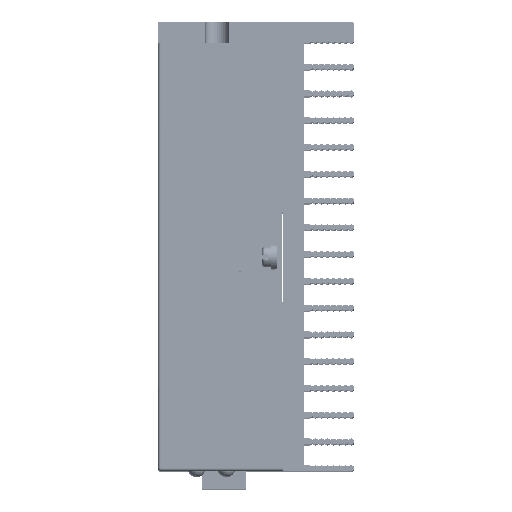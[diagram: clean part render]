
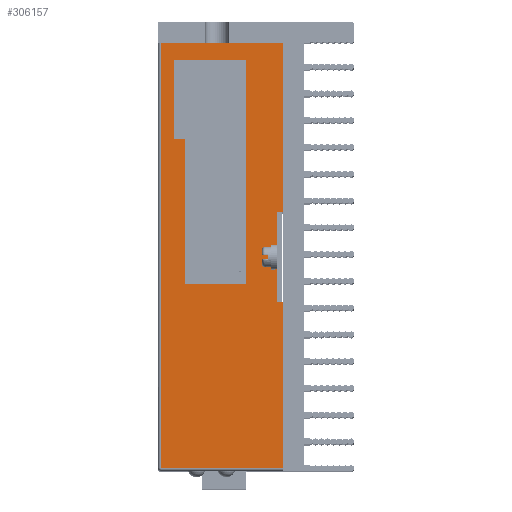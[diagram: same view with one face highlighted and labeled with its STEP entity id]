
A CAD part, top view. The second image highlights one B-rep face of the part: STEP entity #306157.
In plain terms, the highlighted planar face has unit normal (0, 0, 1).
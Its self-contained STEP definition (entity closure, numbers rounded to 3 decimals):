
#281=CARTESIAN_POINT('',(-16.25,34.398,111.));
#283=DIRECTION('',(0.,-1.,0.));
#284=VECTOR('',#283,71.483);
#285=CARTESIAN_POINT('',(-16.25,34.398,111.));
#286=LINE('',#285,#284);
#291=DIRECTION('',(1.,0.,0.));
#292=VECTOR('',#291,4.086);
#293=CARTESIAN_POINT('',(-16.25,34.398,111.));
#294=LINE('',#293,#292);
#295=CARTESIAN_POINT('',(-12.164,34.398,111.));
#296=CARTESIAN_POINT('',(-12.026,34.398,111.));
#297=CARTESIAN_POINT('',(-11.888,34.395,111.));
#298=CARTESIAN_POINT('',(-11.75,34.395,111.));
#300=DIRECTION('',(0.,1.,0.));
#301=VECTOR('',#300,3.);
#302=CARTESIAN_POINT('',(-11.75,34.395,111.));
#303=LINE('',#302,#301);
#304=DIRECTION('',(1.,0.,0.));
#305=VECTOR('',#304,2.);
#306=CARTESIAN_POINT('',(-11.75,37.395,111.));
#307=LINE('',#306,#305);
#308=CARTESIAN_POINT('',(-9.75,34.395,111.));
#309=CARTESIAN_POINT('',(-9.612,34.395,111.));
#310=CARTESIAN_POINT('',(-9.474,34.398,111.));
#311=CARTESIAN_POINT('',(-9.336,34.398,111.));
#313=DIRECTION('',(1.,0.,0.));
#314=VECTOR('',#313,13.586);
#315=CARTESIAN_POINT('',(-9.336,34.398,111.));
#316=LINE('',#315,#314);
#317=DIRECTION('',(-1.,0.,0.));
#318=VECTOR('',#317,0.05);
#319=CARTESIAN_POINT('',(4.25,5.9,111.));
#320=LINE('',#319,#318);
#321=DIRECTION('',(-1.,0.,0.));
#322=VECTOR('',#321,0.95);
#323=CARTESIAN_POINT('',(4.2,5.9,111.));
#324=LINE('',#323,#322);
#325=DIRECTION('',(1.,0.,0.));
#326=VECTOR('',#325,10.3);
#327=CARTESIAN_POINT('',(-12.25,-6.2,111.));
#328=LINE('',#327,#326);
#329=DIRECTION('',(0.,1.,0.));
#330=VECTOR('',#329,37.8);
#331=CARTESIAN_POINT('',(-1.95,-6.2,111.));
#332=LINE('',#331,#330);
#333=DIRECTION('',(-1.,0.,0.));
#334=VECTOR('',#333,12.1);
#335=CARTESIAN_POINT('',(-1.95,31.6,111.));
#336=LINE('',#335,#334);
#337=DIRECTION('',(0.,-1.,0.));
#338=VECTOR('',#337,13.4);
#339=CARTESIAN_POINT('',(-14.05,31.6,111.));
#340=LINE('',#339,#338);
#341=DIRECTION('',(1.,0.,0.));
#342=VECTOR('',#341,1.8);
#343=CARTESIAN_POINT('',(-14.05,18.2,111.));
#344=LINE('',#343,#342);
#345=DIRECTION('',(0.,-1.,0.));
#346=VECTOR('',#345,24.4);
#347=CARTESIAN_POINT('',(-12.25,18.2,111.));
#348=LINE('',#347,#346);
#2417=DIRECTION('',(0.,1.,0.));
#2418=VECTOR('',#2417,28.5);
#2419=CARTESIAN_POINT('',(4.25,5.9,111.));
#2420=LINE('',#2419,#2418);
#2506=DIRECTION('',(0.,1.,0.));
#2507=VECTOR('',#2506,27.985);
#2508=CARTESIAN_POINT('',(4.25,-37.085,111.));
#2509=LINE('',#2508,#2507);
#3377=DIRECTION('',(-1.,0.,0.));
#3378=VECTOR('',#3377,0.05);
#3379=CARTESIAN_POINT('',(4.25,-9.1,111.));
#3380=LINE('',#3379,#3378);
#3385=DIRECTION('',(-1.,0.,0.));
#3386=VECTOR('',#3385,0.95);
#3387=CARTESIAN_POINT('',(4.2,-9.1,111.));
#3388=LINE('',#3387,#3386);
#3393=DIRECTION('',(0.,1.,0.));
#3394=VECTOR('',#3393,15.);
#3395=CARTESIAN_POINT('',(3.25,-9.1,111.));
#3396=LINE('',#3395,#3394);
#9759=DIRECTION('',(1.,0.,0.));
#9760=VECTOR('',#9759,20.5);
#9761=CARTESIAN_POINT('',(-16.25,-37.085,111.));
#9762=LINE('',#9761,#9760);
#224230=DIRECTION('',(0.,1.,0.));
#224231=VECTOR('',#224230,3.);
#224232=CARTESIAN_POINT('',(-9.75,34.395,111.));
#224233=LINE('',#224232,#224231);
#230077=VERTEX_POINT('',#281);
#230082=CARTESIAN_POINT('',(-16.25,-37.085,111.));
#230083=VERTEX_POINT('',#230082);
#230086=CARTESIAN_POINT('',(-12.164,34.398,111.));
#230087=VERTEX_POINT('',#230086);
#230088=VERTEX_POINT('',#298);
#230089=CARTESIAN_POINT('',(-11.75,37.395,111.));
#230090=VERTEX_POINT('',#230089);
#230091=CARTESIAN_POINT('',(-9.75,37.395,111.));
#230092=VERTEX_POINT('',#230091);
#230093=CARTESIAN_POINT('',(-9.75,34.395,111.));
#230094=VERTEX_POINT('',#230093);
#230095=VERTEX_POINT('',#311);
#230096=CARTESIAN_POINT('',(4.25,34.4,111.));
#230097=VERTEX_POINT('',#230096);
#230098=CARTESIAN_POINT('',(4.25,5.9,111.));
#230099=VERTEX_POINT('',#230098);
#230100=CARTESIAN_POINT('',(4.2,5.9,111.));
#230101=VERTEX_POINT('',#230100);
#230102=CARTESIAN_POINT('',(3.25,5.9,111.));
#230103=VERTEX_POINT('',#230102);
#230104=CARTESIAN_POINT('',(3.25,-9.1,111.));
#230105=VERTEX_POINT('',#230104);
#230106=CARTESIAN_POINT('',(4.2,-9.1,111.));
#230107=VERTEX_POINT('',#230106);
#230108=CARTESIAN_POINT('',(4.25,-9.1,111.));
#230109=VERTEX_POINT('',#230108);
#230110=CARTESIAN_POINT('',(4.25,-37.085,111.));
#230111=VERTEX_POINT('',#230110);
#230112=CARTESIAN_POINT('',(-12.25,-6.2,111.));
#230113=CARTESIAN_POINT('',(-1.95,-6.2,111.));
#230114=VERTEX_POINT('',#230112);
#230115=VERTEX_POINT('',#230113);
#230116=CARTESIAN_POINT('',(-1.95,31.6,111.));
#230117=VERTEX_POINT('',#230116);
#230118=CARTESIAN_POINT('',(-14.05,31.6,111.));
#230119=VERTEX_POINT('',#230118);
#230120=CARTESIAN_POINT('',(-14.05,18.2,111.));
#230121=VERTEX_POINT('',#230120);
#230122=CARTESIAN_POINT('',(-12.25,18.2,111.));
#230123=VERTEX_POINT('',#230122);
#306105=CARTESIAN_POINT('',(-16.75,-37.585,111.));
#306106=DIRECTION('',(0.,0.,1.));
#306107=DIRECTION('',(0.,1.,0.));
#306108=AXIS2_PLACEMENT_3D('',#306105,#306106,#306107);
#306109=PLANE('',#306108);
#306110=ORIENTED_EDGE('',*,*,#306096,.F.);
#306112=ORIENTED_EDGE('',*,*,#306111,.T.);
#306114=ORIENTED_EDGE('',*,*,#306113,.T.);
#306116=ORIENTED_EDGE('',*,*,#306115,.T.);
#306118=ORIENTED_EDGE('',*,*,#306117,.T.);
#306120=ORIENTED_EDGE('',*,*,#306119,.F.);
#306122=ORIENTED_EDGE('',*,*,#306121,.T.);
#306124=ORIENTED_EDGE('',*,*,#306123,.T.);
#306126=ORIENTED_EDGE('',*,*,#306125,.F.);
#306128=ORIENTED_EDGE('',*,*,#306127,.T.);
#306130=ORIENTED_EDGE('',*,*,#306129,.T.);
#306132=ORIENTED_EDGE('',*,*,#306131,.F.);
#306134=ORIENTED_EDGE('',*,*,#306133,.F.);
#306136=ORIENTED_EDGE('',*,*,#306135,.F.);
#306138=ORIENTED_EDGE('',*,*,#306137,.F.);
#306140=ORIENTED_EDGE('',*,*,#306139,.F.);
#306141=EDGE_LOOP('',(#306110,#306112,#306114,#306116,#306118,#306120,#306122,
#306124,#306126,#306128,#306130,#306132,#306134,#306136,#306138,#306140));
#306142=FACE_OUTER_BOUND('',#306141,.F.);
#306144=ORIENTED_EDGE('',*,*,#306143,.T.);
#306146=ORIENTED_EDGE('',*,*,#306145,.T.);
#306148=ORIENTED_EDGE('',*,*,#306147,.T.);
#306150=ORIENTED_EDGE('',*,*,#306149,.T.);
#306152=ORIENTED_EDGE('',*,*,#306151,.T.);
#306154=ORIENTED_EDGE('',*,*,#306153,.T.);
#306155=EDGE_LOOP('',(#306144,#306146,#306148,#306150,#306152,#306154));
#306156=FACE_BOUND('',#306155,.F.);
#306157=ADVANCED_FACE('',(#306142,#306156),#306109,.T.);
#299=B_SPLINE_CURVE_WITH_KNOTS('',3,(#295,#296,#297,#298),.UNSPECIFIED.,.F.,.F.,
(4,4),(0.,1.),.UNSPECIFIED.);
#312=B_SPLINE_CURVE_WITH_KNOTS('',3,(#308,#309,#310,#311),.UNSPECIFIED.,.F.,.F.,
(4,4),(0.,1.),.UNSPECIFIED.);
#306096=EDGE_CURVE('',#230077,#230083,#286,.T.);
#306111=EDGE_CURVE('',#230077,#230087,#294,.T.);
#306113=EDGE_CURVE('',#230087,#230088,#299,.T.);
#306115=EDGE_CURVE('',#230088,#230090,#303,.T.);
#306117=EDGE_CURVE('',#230090,#230092,#307,.T.);
#306119=EDGE_CURVE('',#230094,#230092,#224233,.T.);
#306121=EDGE_CURVE('',#230094,#230095,#312,.T.);
#306123=EDGE_CURVE('',#230095,#230097,#316,.T.);
#306125=EDGE_CURVE('',#230099,#230097,#2420,.T.);
#306127=EDGE_CURVE('',#230099,#230101,#320,.T.);
#306129=EDGE_CURVE('',#230101,#230103,#324,.T.);
#306131=EDGE_CURVE('',#230105,#230103,#3396,.T.);
#306133=EDGE_CURVE('',#230107,#230105,#3388,.T.);
#306135=EDGE_CURVE('',#230109,#230107,#3380,.T.);
#306137=EDGE_CURVE('',#230111,#230109,#2509,.T.);
#306139=EDGE_CURVE('',#230083,#230111,#9762,.T.);
#306143=EDGE_CURVE('',#230114,#230115,#328,.T.);
#306145=EDGE_CURVE('',#230115,#230117,#332,.T.);
#306147=EDGE_CURVE('',#230117,#230119,#336,.T.);
#306149=EDGE_CURVE('',#230119,#230121,#340,.T.);
#306151=EDGE_CURVE('',#230121,#230123,#344,.T.);
#306153=EDGE_CURVE('',#230123,#230114,#348,.T.);
